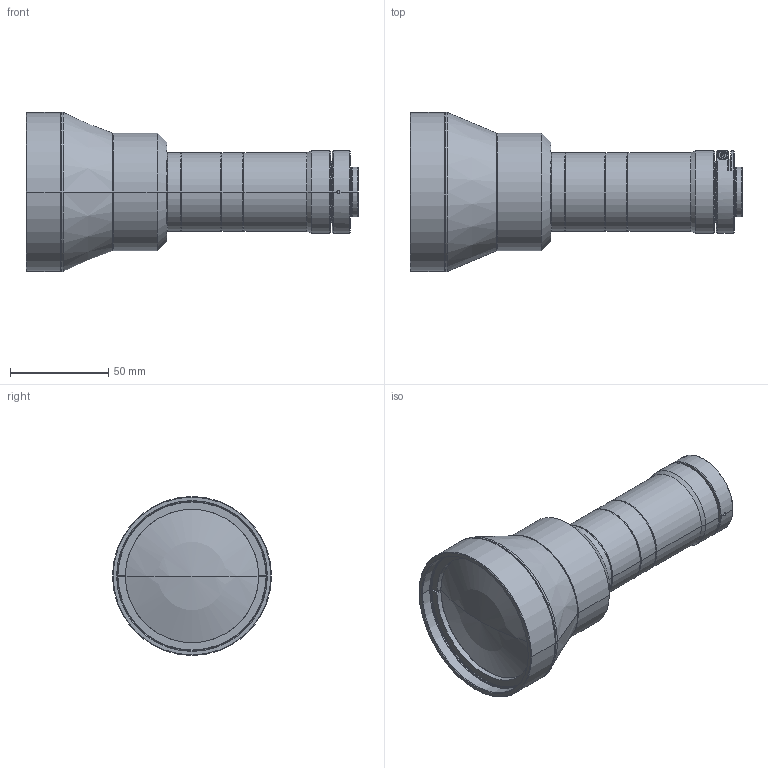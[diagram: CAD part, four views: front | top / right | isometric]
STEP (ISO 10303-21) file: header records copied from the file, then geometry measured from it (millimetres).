
FILE_DESCRIPTION((''),'2;1');
FILE_NAME('HP03-3D0001','2022-09-26T14:36:40',('SCI-X3'),(''),'CREO PARAMETRIC BY PTC INC, 2019224','CREO PARAMETRIC BY PTC INC, 2019224','');
FILE_SCHEMA(('AUTOMOTIVE_DESIGN { 1 0 10303 214 1 1 1 1 }'));
Length unit declared in the file: millimetre
Products named in the file (1): HP03-3D0001
Bounding box: 169.13 x 81 x 81 mm (x, y, z)
Volume: 354437.6 mm3; surface area: 42744.5 mm2
Topology: 1 solids, 3 shells, 201 faces, 452 edges, 268 vertices
Faces by surface type: cylinder 68, plane 58, cone 53, bspline 12, torus 6, sphere 4
Entity records: 7996 total; most frequent: CARTESIAN_POINT 3461, DIRECTION 1003, ORIENTED_EDGE 868, EDGE_CURVE 434, AXIS2_PLACEMENT_3D 413, VERTEX_POINT 264, EDGE_LOOP 228, CIRCLE 223
